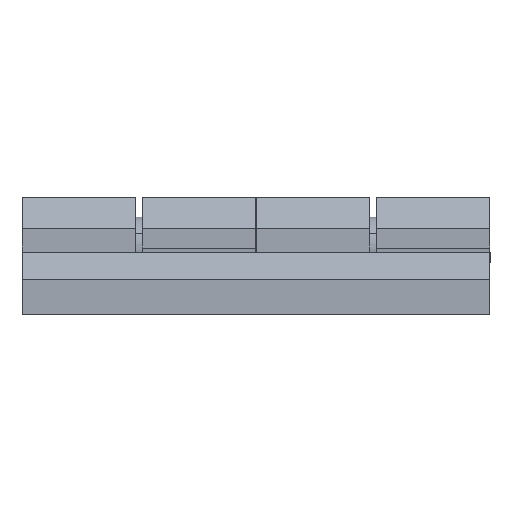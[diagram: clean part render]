
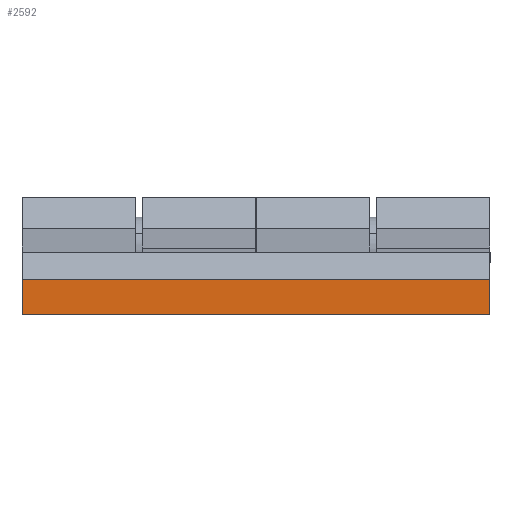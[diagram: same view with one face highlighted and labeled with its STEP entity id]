
A CAD part, front view. The second image highlights one B-rep face of the part: STEP entity #2592.
In plain terms, the highlighted planar face has unit normal (0, -1, 0) as drawn and (-1, 0, 0) by its records, which use the part's own axes.
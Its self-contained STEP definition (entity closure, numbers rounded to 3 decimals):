
#354 = VERTEX_POINT ( 'NONE', #5269 ) ;
#431 = CARTESIAN_POINT ( 'NONE',  ( -38., -8.5, 60. ) ) ;
#542 = VECTOR ( 'NONE', #2953, 1000. ) ;
#573 = CARTESIAN_POINT ( 'NONE',  ( -38., -4., 60. ) ) ;
#833 = VERTEX_POINT ( 'NONE', #431 ) ;
#855 = LINE ( 'NONE', #2774, #5498 ) ;
#1282 = LINE ( 'NONE', #3255, #4734 ) ;
#1461 = DIRECTION ( 'NONE',  ( 0., 1., 0. ) ) ;
#1506 = EDGE_LOOP ( 'NONE', ( #4376, #3665, #5270, #2779 ) ) ;
#1832 = CARTESIAN_POINT ( 'NONE',  ( -38., -8.5, 60. ) ) ;
#1899 = DIRECTION ( 'NONE',  ( 0., 0., 1. ) ) ;
#2297 = DIRECTION ( 'NONE',  ( 0., 0., -1. ) ) ;
#2491 = AXIS2_PLACEMENT_3D ( 'NONE', #1832, #4955, #2297 ) ;
#2592 = ADVANCED_FACE ( 'NONE', ( #3543 ), #4085, .F. ) ;
#2615 = DIRECTION ( 'NONE',  ( 0., 1., 0. ) ) ;
#2774 = CARTESIAN_POINT ( 'NONE',  ( -38., 0., 60. ) ) ;
#2779 = ORIENTED_EDGE ( 'NONE', *, *, #4898, .T. ) ;
#2953 = DIRECTION ( 'NONE',  ( 0., 0., -1. ) ) ;
#3226 = VERTEX_POINT ( 'NONE', #4485 ) ;
#3255 = CARTESIAN_POINT ( 'NONE',  ( -38., -8.5, 60. ) ) ;
#3543 = FACE_OUTER_BOUND ( 'NONE', #1506, .T. ) ;
#3665 = ORIENTED_EDGE ( 'NONE', *, *, #4580, .T. ) ;
#4085 = PLANE ( 'NONE',  #2491 ) ;
#4376 = ORIENTED_EDGE ( 'NONE', *, *, #4437, .T. ) ;
#4405 = LINE ( 'NONE', #4840, #4531 ) ;
#4437 = EDGE_CURVE ( 'NONE', #833, #5116, #855, .T. ) ;
#4485 = CARTESIAN_POINT ( 'NONE',  ( -38., -8.5, 0. ) ) ;
#4531 = VECTOR ( 'NONE', #2615, 1000. ) ;
#4580 = EDGE_CURVE ( 'NONE', #5116, #354, #5079, .T. ) ;
#4723 = EDGE_CURVE ( 'NONE', #3226, #354, #4405, .T. ) ;
#4734 = VECTOR ( 'NONE', #1899, 1000. ) ;
#4840 = CARTESIAN_POINT ( 'NONE',  ( -38., 0., 0. ) ) ;
#4898 = EDGE_CURVE ( 'NONE', #3226, #833, #1282, .T. ) ;
#4955 = DIRECTION ( 'NONE',  ( 1., 0., 0. ) ) ;
#5079 = LINE ( 'NONE', #5611, #542 ) ;
#5116 = VERTEX_POINT ( 'NONE', #573 ) ;
#5269 = CARTESIAN_POINT ( 'NONE',  ( -38., -4., 0. ) ) ;
#5270 = ORIENTED_EDGE ( 'NONE', *, *, #4723, .F. ) ;
#5498 = VECTOR ( 'NONE', #1461, 1000. ) ;
#5611 = CARTESIAN_POINT ( 'NONE',  ( -38., -4., 60. ) ) ;
